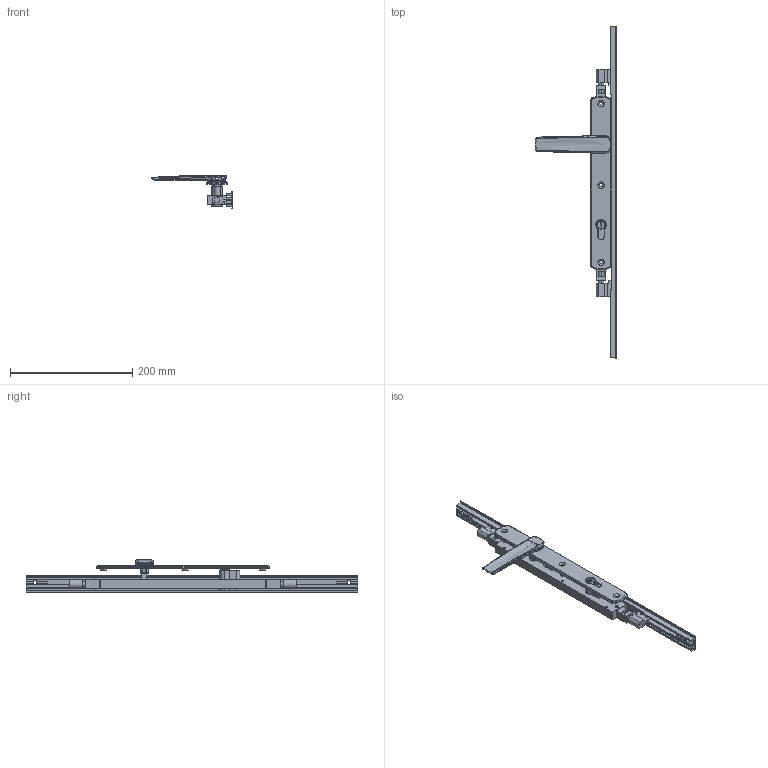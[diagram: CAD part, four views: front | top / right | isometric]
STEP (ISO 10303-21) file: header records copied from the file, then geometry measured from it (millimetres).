
FILE_DESCRIPTION (( 'STEP AP214' ), '1' );
FILE_NAME ('TPL-W-EU-619-U 06Nov2024.STEP', '2024-11-27T04:03:44', ( '' ), ( '' ), 'SwSTEP 2.0', 'SolidWorks 2023', '' );
FILE_SCHEMA (( 'AUTOMOTIVE_DESIGN' ));
Length unit declared in the file: millimetre
Products named in the file (19): Copy of LKC-585 Rotator body zinc^Copy of TPGen2 handle keyed internal zinc - simplified_TPL-W-EU-119 04Nov2024; Copy of TPLGen2 push rod - simplified^Copy of TPLGen2 lock body keyed assembly_TPL-W-EU-119 04Nov2024_Female thread M10; Copy of LKC-586 Spindle square 8mm with M4 hole^Copy of TPGen2 handle keyed internal zinc - simplified_TPL-W-EU-119 04Nov2024_25mm; Copy of LKC-512 Escutcheon plate keyed internal 285mm long zinc - simplified^Copy of TPGen2 handle keyed internal zinc - simplified_TPL-W-EU-119 04Nov2024; TPL-W-EU-619-U 06Nov2024; Copy of LKC-531 Lock twinpoint transmission rod wood system^TPL-W-EU-119 04Nov2024_Standard Range (588.7mm); Copy of TPL-W-EU-130 04Nov2024^TPL-W-EU-119 04Nov2024_TPL-022 Left; Copy of COV-112-C Cover C TPLGen2 Lock body^TPL-W-EU-119 04Nov2024; Copy of TPLGen2 lock body keyed assembly^TPL-W-EU-119 04Nov2024_Bolts retracted; Copy of LKC-584 Pivot body zinc - simplified^Copy of TPGen2 handle keyed internal zinc - simplified_TPL-W-EU-119 04Nov2024; Copy of LKC-505 Swing handle zinc - simplified^Copy of TPGen2 handle keyed internal zinc - simplified_TPL-W-EU-119 04Nov2024; Copy of COV-112-B Cover B suit TPLGen2 standard range^TPL-W-EU-119 04Nov2024_2870mm; Copy of TPGen2 handle keyed internal zinc - simplified^TPL-W-EU-119 04Nov2024_Left; Copy of COV-112-A Cover A suit TPLGen2 standard range^TPL-W-EU-119 04Nov2024_1335mm; Copy of Copy of LKC-531 Lock twinpoint transmission rod wood system^TPL-W-EU-119 04Nov2024_Standard Range 2891.7mm; Copy of Adapter CnE - simplfied^TPL-W-EU-119 04Nov2024_26mm backset; Copy of TPLGen2 lock body keyed^Copy of TPLGen2 lock body keyed assembly_TPL-W-EU-119 04Nov2024; Bolt.step; Copy of Adapter DnF - simplfied^TPL-W-EU-119 04Nov2024_26mm backset
Assembly tree (16 placements, depth 3):
  TPL-W-EU-619-U 06Nov2024
    Copy of TPLGen2 lock body keyed assembly^TPL-W-EU-119 04Nov2024_Bolts retracted
      Copy of TPLGen2 lock body keyed^Copy of TPLGen2 lock body keyed assembly_TPL-W-EU-119 04Nov2024
      Copy of TPLGen2 push rod - simplified^Copy of TPLGen2 lock body keyed assembly_TPL-W-EU-119 04Nov2024_Female thread M10  x2
    Copy of TPGen2 handle keyed internal zinc - simplified^TPL-W-EU-119 04Nov2024_Left
      Copy of LKC-512 Escutcheon plate keyed internal 285mm long zinc - simplified^Copy of TPGen2 handle keyed internal zinc - simplified_TPL-W-EU-119 04Nov2024
      Copy of LKC-505 Swing handle zinc - simplified^Copy of TPGen2 handle keyed internal zinc - simplified_TPL-W-EU-119 04Nov2024
      Copy of LKC-585 Rotator body zinc^Copy of TPGen2 handle keyed internal zinc - simplified_TPL-W-EU-119 04Nov2024
      Copy of LKC-586 Spindle square 8mm with M4 hole^Copy of TPGen2 handle keyed internal zinc - simplified_TPL-W-EU-119 04Nov2024_25mm
      Copy of LKC-584 Pivot body zinc - simplified^Copy of TPGen2 handle keyed internal zinc - simplified_TPL-W-EU-119 04Nov2024
    Copy of TPL-W-EU-130 04Nov2024^TPL-W-EU-119 04Nov2024_TPL-022 Left
    Copy of COV-112-C Cover C TPLGen2 Lock body^TPL-W-EU-119 04Nov2024
    Copy of LKC-531 Lock twinpoint transmission rod wood system^TPL-W-EU-119 04Nov2024_Standard Range (588.7mm)
    Copy of Copy of LKC-531 Lock twinpoint transmission rod wood system^TPL-W-EU-119 04Nov2024_Standard Range 2891.7mm
    Copy of Adapter CnE - simplfied^TPL-W-EU-119 04Nov2024_26mm backset
    Copy of Adapter DnF - simplfied^TPL-W-EU-119 04Nov2024_26mm backset
  Copy of COV-112-B Cover B suit TPLGen2 standard range^TPL-W-EU-119 04Nov2024_2870mm
  Copy of COV-112-A Cover A suit TPLGen2 standard range^TPL-W-EU-119 04Nov2024_1335mm
  Bolt.step
Bounding box: 134.12 x 544 x 53.86 mm (x, y, z)
Volume: 282920.2 mm3; surface area: 139916.2 mm2
Topology: 14 solids, 14 shells, 921 faces, 2293 edges, 1430 vertices
Faces by surface type: plane 325, bspline 241, cylinder 230, cone 71, torus 46, sphere 8
Entity records: 33110 total; most frequent: CARTESIAN_POINT 13052, ORIENTED_EDGE 4394, DIRECTION 3632, EDGE_CURVE 2197, VERTEX_POINT 1370, AXIS2_PLACEMENT_3D 1336, EDGE_LOOP 985, LINE 960
